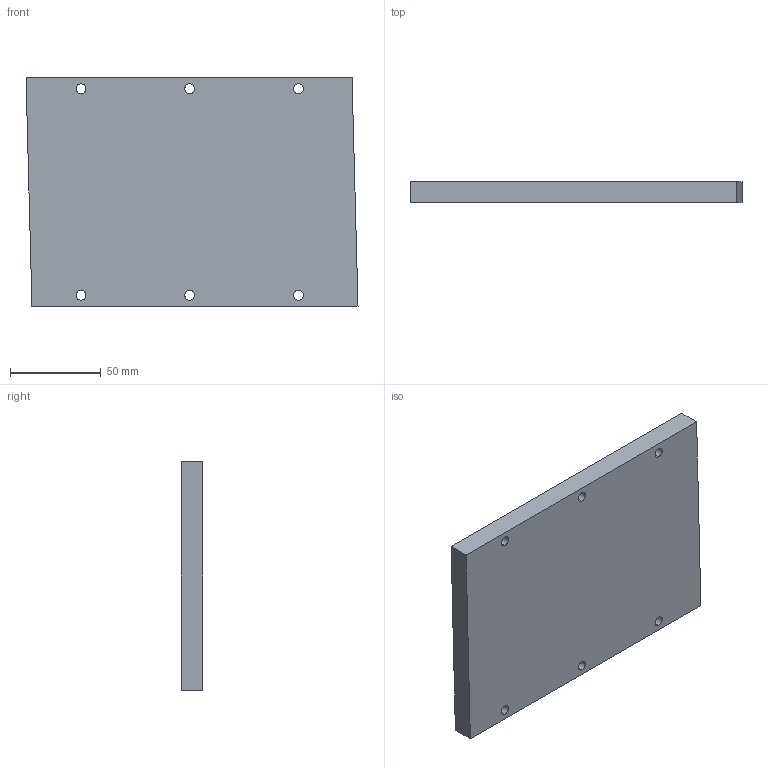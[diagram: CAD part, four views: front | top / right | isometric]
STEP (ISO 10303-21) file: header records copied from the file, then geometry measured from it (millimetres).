
FILE_DESCRIPTION (( 'STEP AP214' ), '1' );
FILE_NAME ('MK4-180.STEP', '2025-09-05T09:04:53', ( '' ), ( '' ), 'SwSTEP 2.0', 'SolidWorks 2016', '' );
FILE_SCHEMA (( 'AUTOMOTIVE_DESIGN' ));
Length unit declared in the file: millimetre
Products named in the file (1): MK4-180
Bounding box: 183.3 x 11.7 x 126 mm (x, y, z)
Volume: 261814.6 mm3; surface area: 53932.8 mm2
Topology: 1 solids, 1 shells, 36 faces, 84 edges, 56 vertices
Faces by surface type: cylinder 24, plane 12
Entity records: 1114 total; most frequent: DIRECTION 206, CARTESIAN_POINT 177, ORIENTED_EDGE 168, AXIS2_PLACEMENT_3D 85, EDGE_CURVE 84, VERTEX_POINT 56, EDGE_LOOP 54, CIRCLE 48
